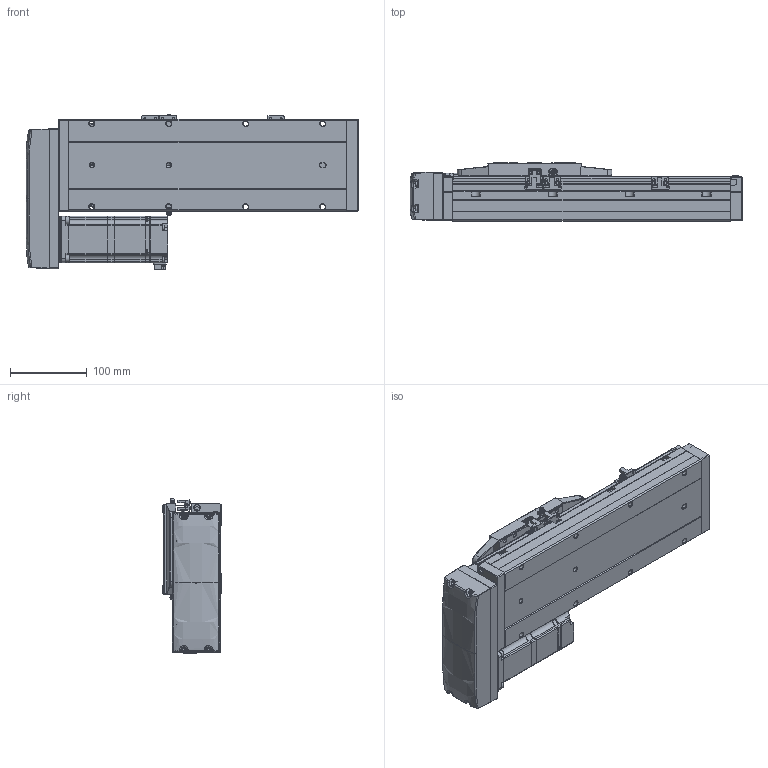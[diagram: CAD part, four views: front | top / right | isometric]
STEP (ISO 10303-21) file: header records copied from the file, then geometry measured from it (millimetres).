
FILE_DESCRIPTION (( 'STEP AP214' ), '1' );
FILE_NAME ('CTH12-L10-S150-BR-C40（简）.STEP', '2023-02-04T07:10:23', ( '' ), ( '' ), 'SwSTEP 2.0', 'SolidWorks 2018', '' );
FILE_SCHEMA (( 'AUTOMOTIVE_DESIGN' ));
Length unit declared in the file: millimetre
Products named in the file (24): CTH12耜蚾裔; CTH12侧装连接板（标准）简; 湮賑怢  裔赽-1(CTH12)賑怢; hex nuts, style 1-grades ab gb_GB_FASTENER_NUT_SNAB1 M3-N; CTH12覜茼え; 内六角圆柱头螺钉M3-1; CTH嫖萇羲壽假蚾啣; CTH12底座-L361简（150行程）; AC60_Valor predeterminado; CTH12_body_3; CTH12-BL_body_4; CTH400W假蚾啣; 内六角圆柱头螺钉M3; M5蹟隊; 嫖萇羲壽郪磁2; 蚐郲; 嫖萇羲壽郪磁1; 内六角圆柱头螺钉M3-2; PM-Y45; CTH12賑怢郪磁; CTH400W垫板（3个厚）; CTH12; CTH12賑怢ㄗ潠ㄘ; CTH12-L10-S150-BR-C40（简）
Assembly tree (44 placements, depth 4):
  CTH12-L10-S150-BR-C40（简）
    CTH12底座-L361简（150行程）
    蚐郲  x2
    CTH12_body_3
    CTH12-BL_body_4
    CTH12侧装连接板（标准）简
    CTH12耜蚾裔
    CTH12賑怢郪磁
      CTH12
        湮賑怢  裔赽-1(CTH12)賑怢
        CTH12賑怢ㄗ潠ㄘ
    CTH12覜茼え
    嫖萇羲壽郪磁1  x2
      CTH嫖萇羲壽假蚾啣
      PM-Y45
      内六角圆柱头螺钉M3-2
      内六角圆柱头螺钉M3-1
      hex nuts, style 1-grades ab gb_GB_FASTENER_NUT_SNAB1 M3-N
    嫖萇羲壽郪磁2
      CTH嫖萇羲壽假蚾啣
      PM-Y45
      内六角圆柱头螺钉M3-1  x2
      内六角圆柱头螺钉M3-2  x2
      hex nuts, style 1-grades ab gb_GB_FASTENER_NUT_SNAB1 M3-N  x2
    CTH400W垫板（3个厚）
    AC60_Valor predeterminado
    内六角圆柱头螺钉M3  x6
    M5蹟隊  x4
    CTH400W假蚾啣
Bounding box: 431.5 x 76 x 201.06 mm (x, y, z)
Volume: 3425294.4 mm3; surface area: 438421.1 mm2
Topology: 47 solids, 48 shells, 2624 faces, 6679 edges, 4273 vertices
Faces by surface type: plane 1455, cylinder 744, cone 283, bspline 90, torus 52
Entity records: 74677 total; most frequent: CARTESIAN_POINT 20190, ORIENTED_EDGE 10538, DIRECTION 10224, EDGE_CURVE 5269, AXIS2_PLACEMENT_3D 3440, VERTEX_POINT 3377, VECTOR 3344, LINE 3344
